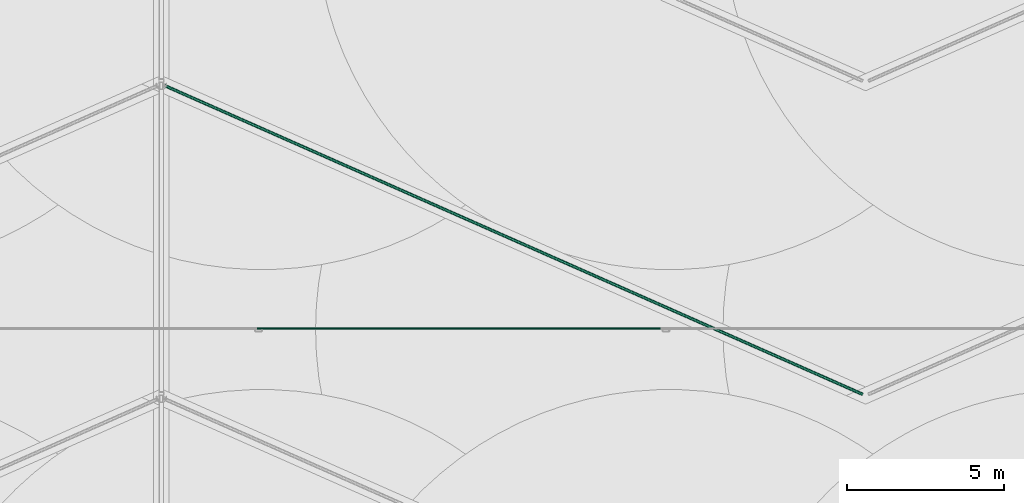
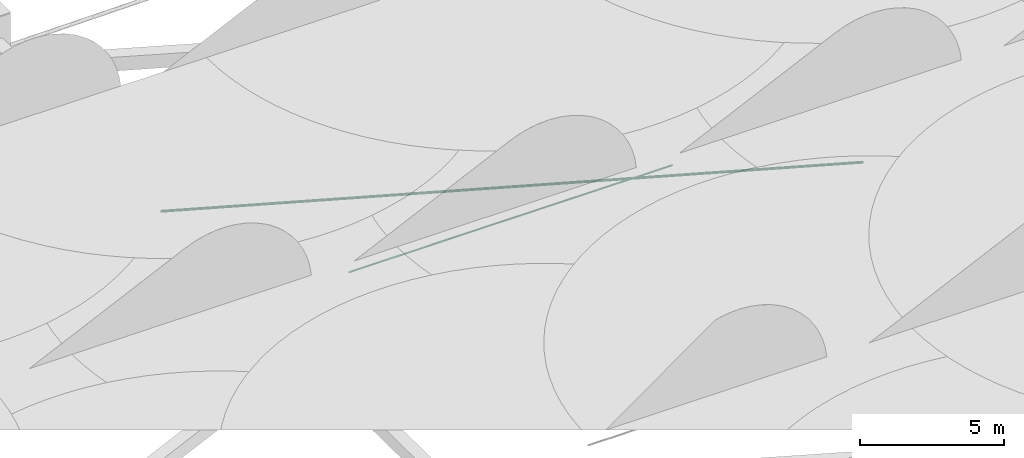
# One storey, part 23 of 166: 2 flow segments.
"""IFC2X3 building model written with IfcOpenShell, lengths in metres."""

from ifc_helpers import new_model, entity, si_unit, converted_unit, direction, frame, frame_2d, origin, place, context, subcontext, project, spatial, circle, extrude, type_object, element, save


model = new_model("IFC2X3")

# Units and contexts
model_context = context("Model", 3, precision=1e-05, world=origin(), true_north=direction((6.123233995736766e-17, 1.0)))
body_context = subcontext(model_context, "Body", "Model", "MODEL_VIEW")
ifc_project = project(units=[si_unit("LENGTHUNIT", "METRE"), converted_unit("PLANEANGLEUNIT", "DEGREE", entity("IfcPlaneAngleMeasure", 0.017453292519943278), si_unit("PLANEANGLEUNIT", "RADIAN"), dimensions=[0, 0, 0, 0, 0, 0, 0]), si_unit("AREAUNIT", "SQUARE_METRE")], contexts=[model_context])

# Site, building, storey
site_placement = place(None, origin())
site = spatial("IfcSite", under=ifc_project, at=site_placement, Name="Default", CompositionType="ELEMENT")
building_placement = place(site_placement, origin())
building = spatial("IfcBuilding", under=site, at=building_placement, Name="CASA DE ACOLHIDA PARA IDOSOS", CompositionType="ELEMENT")
storey_placement = place(building_placement, frame((0.0, 0.0, -1.7499999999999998)))
storey = spatial("IfcBuildingStorey", under=building, at=storey_placement, Name="IMPLANTAÇÃO DRENAGEM", CompositionType="ELEMENT", Elevation=-1.7499999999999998)

# Flow segments
pipe_segment_type_1 = type_object("IfcPipeSegmentType", Name="Tipos de tubos:PLUV_Tubo PEAD Corrugado", PredefinedType="NOTDEFINED")
flow_segment_1_placement = place(storey_placement, origin())
element("IfcFlowSegment", 1, at=flow_segment_1_placement, inside=storey, type_object=pipe_segment_type_1, Name="Tipos de tubos:PLUV_Tubo PEAD Corrugado", ObjectType="Tipos de tubos:PLUV_Tubo PEAD Corrugado", context=body_context, shape_type="SweptSolid", body=[
    extrude(circle(Radius=0.05, at=frame_2d((-2.7376585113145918e-17, -6.18919464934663e-19), x_axis=(1.0, 0.0))), frame((0.4055572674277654, 33.95305791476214, -1.05000995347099), z_axis=(-0.9144899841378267, 0.40448495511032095, -0.009999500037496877), x_axis=(0.4045051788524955, 0.9145357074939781, 0.0)), (0.0, 0.0, 1.0), 24.480228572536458),
])
pipe_segment_type_2 = type_object("IfcPipeSegmentType", Name="Tipos de tubos:AF_Tubo Marrom Soldável", PredefinedType="NOTDEFINED")
flow_segment_2_placement = place(storey_placement, origin())
element("IfcFlowSegment", 2, at=flow_segment_2_placement, inside=storey, type_object=pipe_segment_type_2, Name="Tipos de tubos:AF_Tubo Marrom Soldável", ObjectType="Tipos de tubos:AF_Tubo Marrom Soldável", context=body_context, shape_type="SweptSolid", body=[
    extrude(circle(Radius=0.025, at=frame_2d((0.0, -2.707167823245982e-16), x_axis=(1.0, 0.0))), frame((-18.958348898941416, 36.05494207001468, -0.19999999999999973), z_axis=(1.0, 0.0, 0.0), x_axis=(0.0, -1.0, 0.0)), (0.0, 0.0, 1.0), 12.9348),
])

save(model, "model.ifc")
